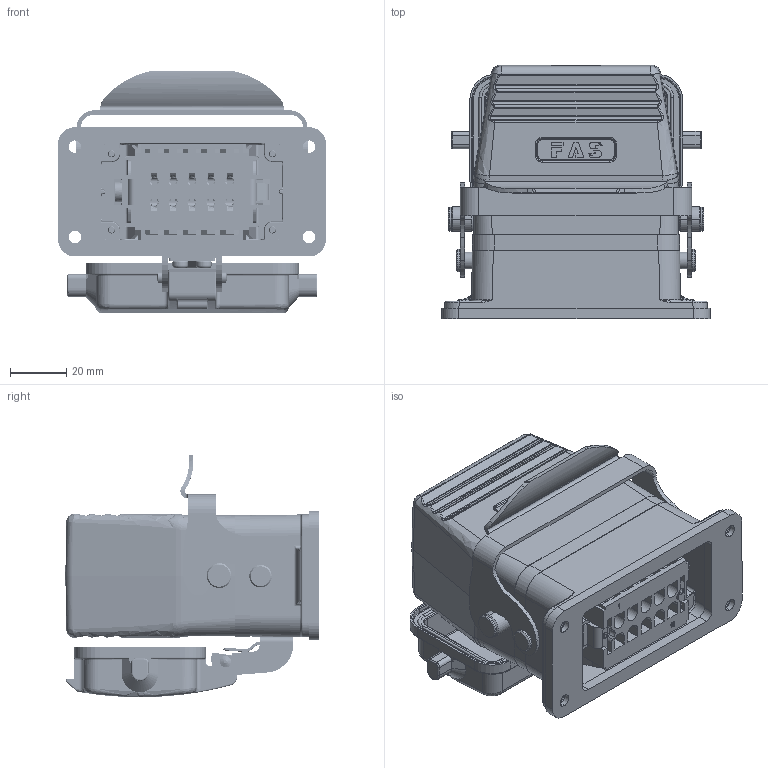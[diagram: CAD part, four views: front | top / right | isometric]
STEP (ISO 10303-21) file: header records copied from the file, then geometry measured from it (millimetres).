
FILE_DESCRIPTION (( 'STEP AP214' ), '1' );
FILE_NAME ('09010106120 HE、10针、开孔带盖底座、顶出20套件.STEP', '2024-04-26T08:18:04', ( 'L' ), ( '' ), 'SwSTEP 2.0', 'SolidWorks 2019', '' );
FILE_SCHEMA (( 'AUTOMOTIVE_DESIGN' ));
Length unit declared in the file: millimetre
Products named in the file (8): ____1.STEP; H10B-AD-LB.STEP; H10B-TG-RO-M20.step; 09010106120 HE、10针、开孔带盖底座、顶出20套件; 1019.STEP; HE-010-F.stp; 10bmifengquan-1-solid1.STEP; HE-010-M.stp
Assembly tree (7 placements, depth 4):
  09010106120 HE、10针、开孔带盖底座、顶出20套件
    HE-010-F.stp
    HE-010-M.stp
    H10B-AD-LB.STEP
      1019.STEP
        10bmifengquan-1-solid1.STEP
        ____1.STEP
    H10B-TG-RO-M20.step
Bounding box: 95 x 89.8 x 85.95 mm (x, y, z)
Volume: 173084.4 mm3; surface area: 116354.1 mm2
Topology: 5 solids, 10 shells, 5217 faces, 13904 edges, 8709 vertices
Faces by surface type: plane 2335, cylinder 1217, bspline 1001, cone 451, torus 169, sphere 44
Entity records: 271154 total; most frequent: CARTESIAN_POINT 137188, ORIENTED_EDGE 27536, DIRECTION 22045, EDGE_CURVE 13768, VERTEX_POINT 8681, LINE 7425, VECTOR 7425, AXIS2_PLACEMENT_3D 7310
